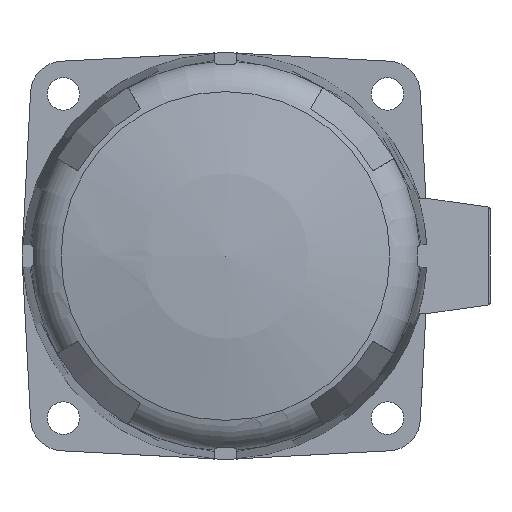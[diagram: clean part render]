
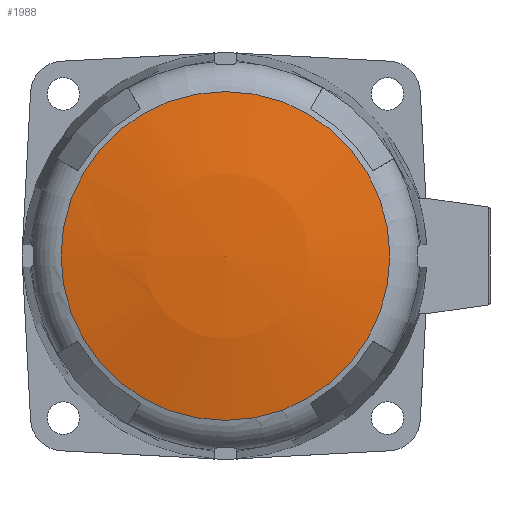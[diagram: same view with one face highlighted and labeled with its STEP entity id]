
A CAD part, left-side view. The second image highlights one B-rep face of the part: STEP entity #1988.
In plain terms, the highlighted spherical face has radius 200 mm.
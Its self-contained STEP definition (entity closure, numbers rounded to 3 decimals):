
#18=SPHERICAL_SURFACE('',#2206,200.);
#131=CIRCLE('',#2104,43.034);
#594=ORIENTED_EDGE('',*,*,#858,.F.);
#858=EDGE_CURVE('',#1127,#1127,#131,.T.);
#1127=VERTEX_POINT('',#2981);
#1662=EDGE_LOOP('',(#594));
#1812=FACE_BOUND('',#1662,.T.);
#1988=ADVANCED_FACE('',(#1812),#18,.T.);
#2104=AXIS2_PLACEMENT_3D('',#2980,#2413,#2414);
#2206=AXIS2_PLACEMENT_3D('',#3506,#2690,#2691);
#2413=DIRECTION('',(1.,0.,0.));
#2414=DIRECTION('',(0.,0.,-1.));
#2690=DIRECTION('',(1.,0.,0.));
#2691=DIRECTION('',(0.,1.,0.));
#2980=CARTESIAN_POINT('',(-145.315,0.,0.));
#2981=CARTESIAN_POINT('',(-145.315,0.,-43.034));
#3506=CARTESIAN_POINT('',(50.,0.,0.));
